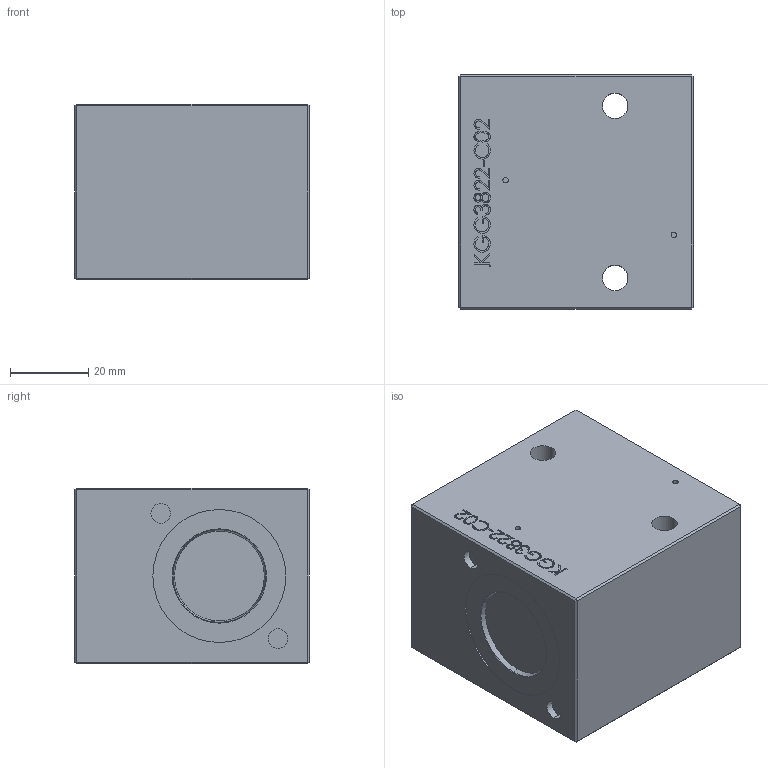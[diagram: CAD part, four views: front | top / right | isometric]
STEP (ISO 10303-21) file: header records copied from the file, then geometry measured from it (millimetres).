
FILE_DESCRIPTION (( 'STEP AP214' ), '1' );
FILE_NAME ('KGG3822-C02.STEP', '2016-11-25T10:38:49', ( '' ), ( '' ), 'SwSTEP 2.0', 'SolidWorks 2014', '' );
FILE_SCHEMA (( 'AUTOMOTIVE_DESIGN' ));
Length unit declared in the file: millimetre
Products named in the file (2): KGG3822-C02
Bounding box: 60 x 60 x 45 mm (x, y, z)
Volume: 156865 mm3; surface area: 20064 mm2
Topology: 1 solids, 1 shells, 236 faces, 589 edges, 384 vertices
Faces by surface type: plane 113, bspline 91, cylinder 28, cone 2, torus 2
Entity records: 12666 total; most frequent: CARTESIAN_POINT 7438, ORIENTED_EDGE 1178, DIRECTION 765, EDGE_CURVE 589, VERTEX_POINT 384, VECTOR 343, LINE 343, EDGE_LOOP 269
